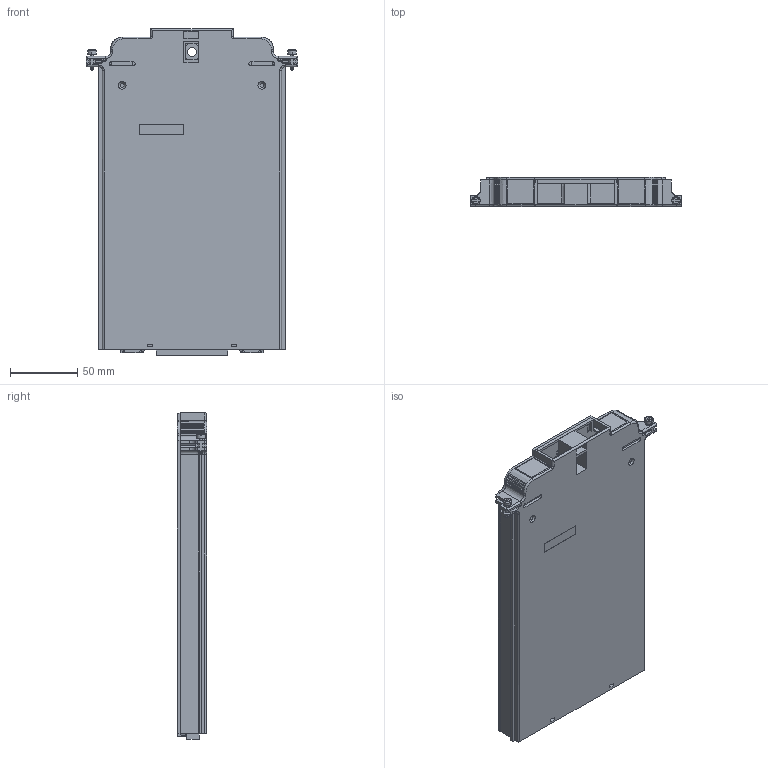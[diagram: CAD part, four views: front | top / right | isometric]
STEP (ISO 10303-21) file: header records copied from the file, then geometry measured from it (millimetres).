
FILE_DESCRIPTION((''),'2;1');
FILE_NAME('7700_CARD_ASM','2022-10-19T10:14:38',('u607888'),(''),'CREO PARAMETRIC BY PTC INC, 2019080','CREO PARAMETRIC BY PTC INC, 2019080','');
FILE_SCHEMA(('CONFIG_CONTROL_DESIGN','SHAPE_APPEARANCE_LAYERS_GROUPS'));
Length unit declared in the file: inch
Products named in the file (7): 7702_301; 7702_302; 7700_301; 7700_302A_ASM; FA-326-1; 7700_100C_FIXBD; 7700_CARD_ASM
Assembly tree (7 placements, depth 3):
  7700_CARD_ASM
    7702_301
    7700_302A_ASM
      7702_302
      7700_301
    FA-326-1  x2
    7700_100C_FIXBD
Bounding box: 157.99 x 21.84 x 243.59 mm (x, y, z)
Volume: 285684.8 mm3; surface area: 290286.5 mm2
Topology: 6 solids, 6 shells, 3785 faces, 10134 edges, 6656 vertices
Faces by surface type: plane 2275, extrusion 919, cylinder 443, cone 84, torus 46, bspline 18
Entity records: 132491 total; most frequent: CARTESIAN_POINT 30666, ORIENTED_EDGE 20034, DIRECTION 15586, EDGE_CURVE 10017, VECTOR 7942, LINE 7023, VERTEX_POINT 6580, EDGE_LOOP 4103
